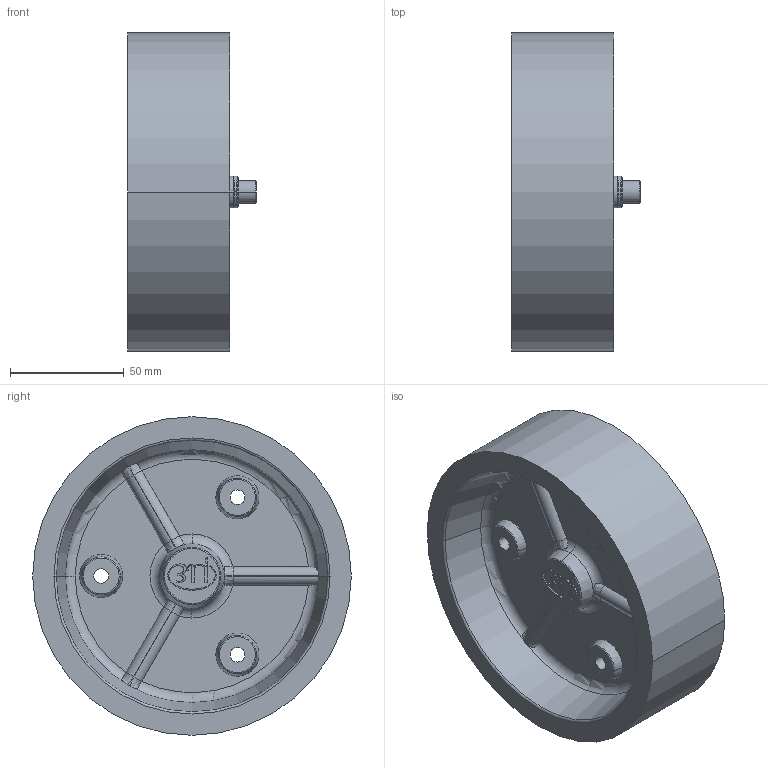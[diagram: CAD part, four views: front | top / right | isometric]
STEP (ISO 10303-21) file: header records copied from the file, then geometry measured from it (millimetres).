
FILE_DESCRIPTION((''),'2;1');
FILE_NAME('EU80_ASM','2008-09-19T',('11000205'),(''),'PRO/ENGINEER BY PARAMETRIC TECHNOLOGY CORPORATION, 2006460','PRO/ENGINEER BY PARAMETRIC TECHNOLOGY CORPORATION, 2006460','');
FILE_SCHEMA(('CONFIG_CONTROL_DESIGN'));
Length unit declared in the file: millimetre
Products named in the file (4): EU80; 0323120_; ME-SYMBOL; EU80_ASM
Assembly tree (3 placements, depth 2):
  EU80_ASM
    EU80
    0323120_
    ME-SYMBOL
Bounding box: 56.8 x 140.3 x 140.3 mm (x, y, z)
Volume: 474086.9 mm3; surface area: 62519.4 mm2
Topology: 6 solids, 74 shells, 717 faces, 1537 edges, 978 vertices
Faces by surface type: plane 346, cylinder 201, cone 95, torus 59, bspline 10, extrusion 6
Entity records: 21394 total; most frequent: CARTESIAN_POINT 5622, DIRECTION 3397, ORIENTED_EDGE 3058, EDGE_CURVE 1533, AXIS2_PLACEMENT_3D 1325, VERTEX_POINT 978, EDGE_LOOP 765, VECTOR 747
